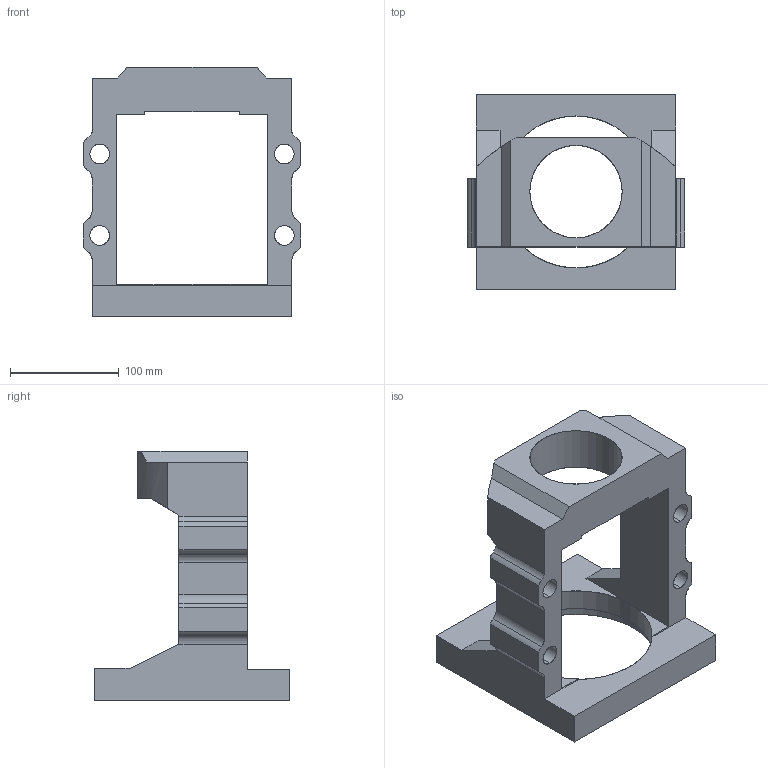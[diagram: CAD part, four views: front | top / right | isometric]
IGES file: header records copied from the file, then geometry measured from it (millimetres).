
Start section: SolidWorks IGES file using analytic representation for surfaces
Global section: file name: C:\Users\117\Desktop\1101001MBB30-H-I-J網路圖處理\2D3D\3D\MBB30-J.IGS; native system: SolidWorks 2018; preprocessor: SolidWorks 2018; author: 117; date: 211001.141140; units: millimetre
Bounding box: 200 x 180 x 230 mm (x, y, z)
Surface area: 198877.5 mm2 (no closed solid volume)
Topology: 0 solids, 0 shells, 133 faces, 1992 edges, 1972 vertices
Faces by surface type: revolution 91, bspline 42
